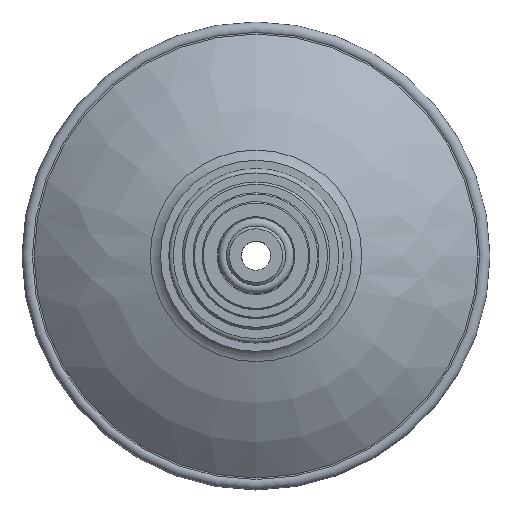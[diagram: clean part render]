
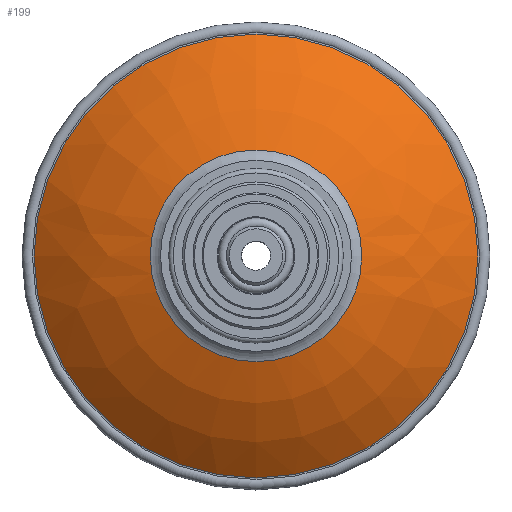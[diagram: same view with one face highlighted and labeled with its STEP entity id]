
A CAD part, top view. The second image highlights one B-rep face of the part: STEP entity #199.
In plain terms, the highlighted free-form (B-spline) face has degree [3, 3] with [4, 7] control points.
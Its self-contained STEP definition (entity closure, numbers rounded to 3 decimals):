
#199 = ADVANCED_FACE( '', ( #433, #434 ), #435, .T. );
#433 = FACE_OUTER_BOUND( '', #751, .T. );
#434 = FACE_OUTER_BOUND( '', #752, .T. );
#435 = ( BOUNDED_SURFACE(  )B_SPLINE_SURFACE( 3, 3, ( ( #755, #756, #757, #758, #759, #760, #761 ), ( #762, #763, #764, #765, #766, #767, #768 ), ( #769, #770, #771, #772, #773, #774, #775 ), ( #776, #777, #778, #779, #780, #781, #782 ) ), .UNSPECIFIED., .F., .T., .F. )B_SPLINE_SURFACE_WITH_KNOTS( ( 4, 4 ), ( 4, 3, 4 ), ( 0., 6.283 ), ( 0.856, 1.069, 1.281 ), .UNSPECIFIED. )GEOMETRIC_REPRESENTATION_ITEM(  )RATIONAL_B_SPLINE_SURFACE( ( ( 1., 0.333, 0.333, 1., 0.333, 0.333, 1. ), ( 0.985, 0.328, 0.328, 0.985, 0.328, 0.328, 0.985 ), ( 0.985, 0.328, 0.328, 0.985, 0.328, 0.328, 0.985 ), ( 1., 0.333, 0.333, 1., 0.333, 0.333, 1. ) ) )REPRESENTATION_ITEM( '' )SURFACE(  ) );
#751 = EDGE_LOOP( '', ( #1161 ) );
#752 = EDGE_LOOP( '', ( #1162 ) );
#755 = CARTESIAN_POINT( '', ( 23.489, 0., 2.656 ) );
#756 = CARTESIAN_POINT( '', ( 23.489, 47.024, 2.656 ) );
#757 = CARTESIAN_POINT( '', ( -23.535, 47.024, 2.656 ) );
#758 = CARTESIAN_POINT( '', ( -23.535, 0., 2.656 ) );
#759 = CARTESIAN_POINT( '', ( -23.535, -47.024, 2.656 ) );
#760 = CARTESIAN_POINT( '', ( 23.489, -47.024, 2.656 ) );
#761 = CARTESIAN_POINT( '', ( 23.489, 0., 2.656 ) );
#762 = CARTESIAN_POINT( '', ( 33.037, 0., -0.186 ) );
#763 = CARTESIAN_POINT( '', ( 33.037, 66.12, -0.186 ) );
#764 = CARTESIAN_POINT( '', ( -33.083, 66.12, -0.186 ) );
#765 = CARTESIAN_POINT( '', ( -33.083, 0., -0.186 ) );
#766 = CARTESIAN_POINT( '', ( -33.083, -66.12, -0.186 ) );
#767 = CARTESIAN_POINT( '', ( 33.037, -66.12, -0.186 ) );
#768 = CARTESIAN_POINT( '', ( 33.037, 0., -0.186 ) );
#769 = CARTESIAN_POINT( '', ( 41.769, 0., -4.982 ) );
#770 = CARTESIAN_POINT( '', ( 41.769, 83.584, -4.982 ) );
#771 = CARTESIAN_POINT( '', ( -41.815, 83.584, -4.982 ) );
#772 = CARTESIAN_POINT( '', ( -41.815, 0., -4.982 ) );
#773 = CARTESIAN_POINT( '', ( -41.815, -83.584, -4.982 ) );
#774 = CARTESIAN_POINT( '', ( 41.769, -83.584, -4.982 ) );
#775 = CARTESIAN_POINT( '', ( 41.769, 0., -4.982 ) );
#776 = CARTESIAN_POINT( '', ( 49.29, 0., -11.514 ) );
#777 = CARTESIAN_POINT( '', ( 49.29, 98.627, -11.514 ) );
#778 = CARTESIAN_POINT( '', ( -49.337, 98.627, -11.514 ) );
#779 = CARTESIAN_POINT( '', ( -49.337, 0., -11.514 ) );
#780 = CARTESIAN_POINT( '', ( -49.337, -98.627, -11.514 ) );
#781 = CARTESIAN_POINT( '', ( 49.29, -98.627, -11.514 ) );
#782 = CARTESIAN_POINT( '', ( 49.29, 0., -11.514 ) );
#1161 = ORIENTED_EDGE( '', *, *, #1381, .T. );
#1162 = ORIENTED_EDGE( '', *, *, #1412, .F. );
#1381 = EDGE_CURVE( '', #1548, #1548, #1549, .T. );
#1412 = EDGE_CURVE( '', #1594, #1594, #1595, .T. );
#1548 = VERTEX_POINT( '', #1741 );
#1549 = CIRCLE( '', #1742, 49.314 );
#1594 = VERTEX_POINT( '', #1787 );
#1595 = CIRCLE( '', #1788, 23.512 );
#1741 = CARTESIAN_POINT( '', ( 49.29, 0., -11.514 ) );
#1742 = AXIS2_PLACEMENT_3D( '', #1951, #1952, #1953 );
#1787 = CARTESIAN_POINT( '', ( 23.489, 0., 2.656 ) );
#1788 = AXIS2_PLACEMENT_3D( '', #1996, #1997, #1998 );
#1951 = CARTESIAN_POINT( '', ( -0.023, 0., -11.514 ) );
#1952 = DIRECTION( '', ( 0., 0., 1. ) );
#1953 = DIRECTION( '', ( 1., 0., 0. ) );
#1996 = CARTESIAN_POINT( '', ( -0.023, 0., 2.656 ) );
#1997 = DIRECTION( '', ( 0., 0., 1. ) );
#1998 = DIRECTION( '', ( 1., 0., 0. ) );
